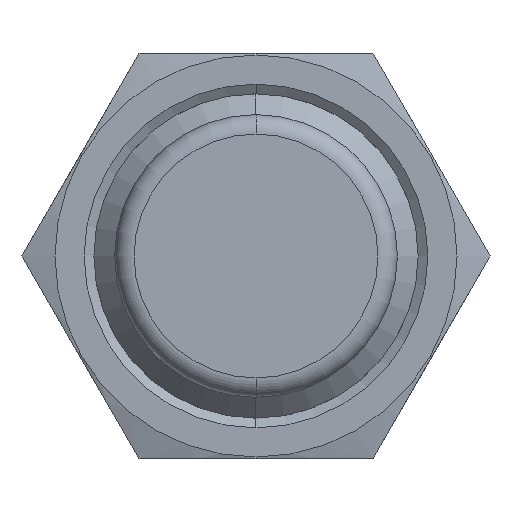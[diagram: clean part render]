
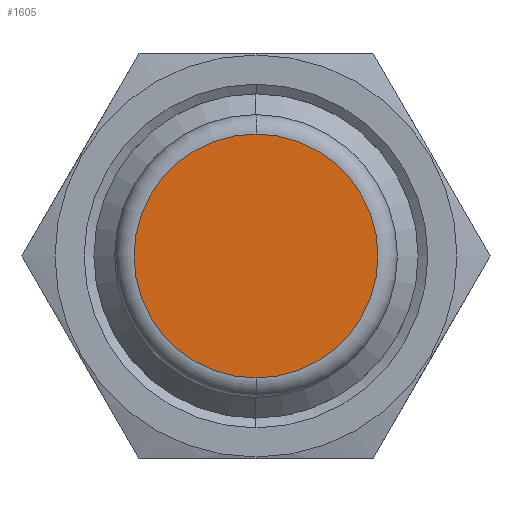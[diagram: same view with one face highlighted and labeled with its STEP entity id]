
A CAD part, left-side view. The second image highlights one B-rep face of the part: STEP entity #1605.
In plain terms, the highlighted planar face has unit normal (-1, 0, 0).
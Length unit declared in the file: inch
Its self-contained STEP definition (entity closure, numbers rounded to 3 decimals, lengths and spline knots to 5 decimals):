
#358 = AXIS2_PLACEMENT_3D ( 'NONE', #2831, #2832, #2833 ) ;
#364 = CIRCLE ( 'NONE', #358, 0.188 ) ;
#372 = AXIS2_PLACEMENT_3D ( 'NONE', #2808, #2809, #2810 ) ;
#379 = CIRCLE ( 'NONE', #372, 0.188 ) ;
#533 = AXIS2_PLACEMENT_3D ( 'NONE', #2232, #2238, #2239 ) ;
#1153 = VERTEX_POINT ( 'NONE', #2924 ) ;
#1154 = VERTEX_POINT ( 'NONE', #2925 ) ;
#1280 = EDGE_LOOP ( 'NONE', ( #2048, #2047 ) ) ;
#1605 = ADVANCED_FACE ( 'NONE', ( #2235 ), #2236, .T. ) ;
#1737 = EDGE_CURVE ( 'NONE', #1154, #1153, #379, .T. ) ;
#1745 = EDGE_CURVE ( 'NONE', #1153, #1154, #364, .T. ) ;
#2047 = ORIENTED_EDGE ( 'NONE', *, *, #1737, .T. ) ;
#2048 = ORIENTED_EDGE ( 'NONE', *, *, #1745, .T. ) ;
#2232 = CARTESIAN_POINT ( 'NONE',  ( -1.995, 0., 0. ) ) ;
#2235 = FACE_OUTER_BOUND ( 'NONE', #1280, .T. ) ;
#2236 = PLANE ( 'NONE',  #533 ) ;
#2238 = DIRECTION ( 'NONE',  ( -1., 0., 0. ) ) ;
#2239 = DIRECTION ( 'NONE',  ( 0., 0., -1. ) ) ;
#2808 = CARTESIAN_POINT ( 'NONE',  ( -1.995, 0., 0. ) ) ;
#2809 = DIRECTION ( 'NONE',  ( -1., 0., 0. ) ) ;
#2810 = DIRECTION ( 'NONE',  ( 0., 0., -1. ) ) ;
#2831 = CARTESIAN_POINT ( 'NONE',  ( -1.995, 0., 0. ) ) ;
#2832 = DIRECTION ( 'NONE',  ( -1., 0., 0. ) ) ;
#2833 = DIRECTION ( 'NONE',  ( 0., 0., -1. ) ) ;
#2924 = CARTESIAN_POINT ( 'NONE',  ( -1.995, 0., -0.188 ) ) ;
#2925 = CARTESIAN_POINT ( 'NONE',  ( -1.995, 0., 0.188 ) ) ;
